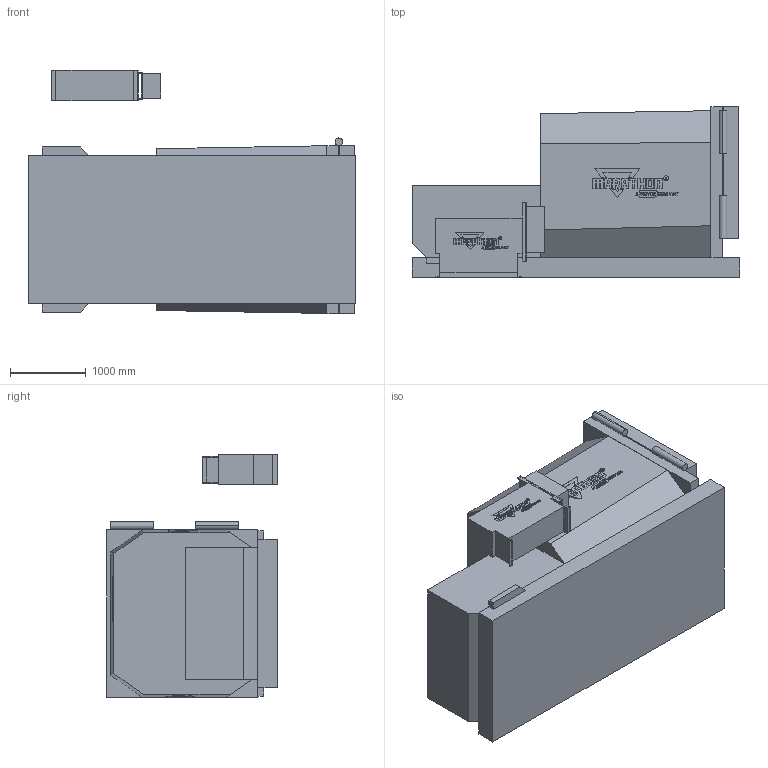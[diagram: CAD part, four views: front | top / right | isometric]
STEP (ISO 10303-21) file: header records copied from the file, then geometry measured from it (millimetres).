
FILE_DESCRIPTION((''),'2;1');
FILE_NAME('60951_ASM','2018-10-01T20:01:53',('10048000'),(''),'CREO PARAMETRIC BY PTC INC, 2017110','CREO PARAMETRIC BY PTC INC, 2017110','');
FILE_SCHEMA(('CONFIG_CONTROL_DESIGN'));
Products named in the file (3): STRUCTURE_60951; POWER_PACK_60951; 60951_ASM
Assembly tree (2 placements, depth 2):
  60951_ASM
    STRUCTURE_60951
    POWER_PACK_60951
Bounding box: 4335.46 x 2260.46 x 3217.9 mm (x, y, z)
Volume: 14390140465.7 mm3; surface area: 62422359.5 mm2
Topology: 7 solids, 7 shells, 2977 faces, 8191 edges, 5456 vertices
Faces by surface type: plane 2751, cylinder 226
Entity records: 93093 total; most frequent: CARTESIAN_POINT 16629, ORIENTED_EDGE 16382, DIRECTION 14607, EDGE_CURVE 8191, VECTOR 7739, LINE 7739, VERTEX_POINT 5456, AXIS2_PLACEMENT_3D 3434
